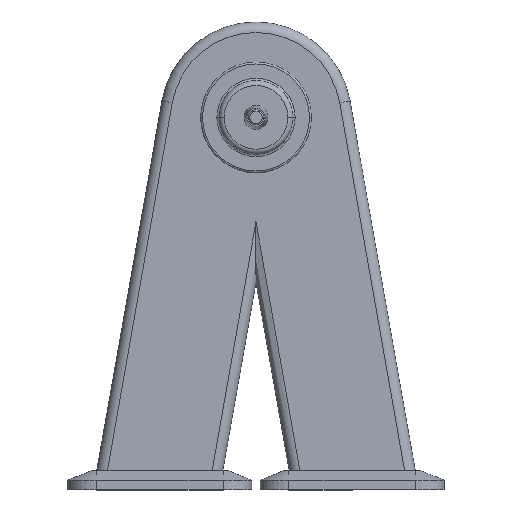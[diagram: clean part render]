
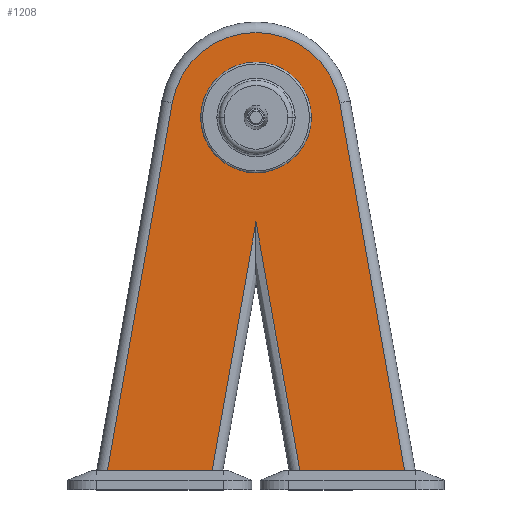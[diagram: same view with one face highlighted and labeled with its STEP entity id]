
A CAD part, top view. The second image highlights one B-rep face of the part: STEP entity #1208.
In plain terms, the highlighted planar face has unit normal (0, 0, 1).
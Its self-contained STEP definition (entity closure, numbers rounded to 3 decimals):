
#2 = VECTOR ( 'NONE', #1833, 1000. ) ;
#7 = VERTEX_POINT ( 'NONE', #575 ) ;
#39 = CARTESIAN_POINT ( 'NONE',  ( 0., 390., 63. ) ) ;
#109 = CARTESIAN_POINT ( 'NONE',  ( 0., 390., 63. ) ) ;
#257 = DIRECTION ( 'NONE',  ( 0., 0., 1. ) ) ;
#294 = CARTESIAN_POINT ( 'NONE',  ( 0., 20., 63. ) ) ;
#337 = AXIS2_PLACEMENT_3D ( 'NONE', #109, #2846, #821 ) ;
#371 = DIRECTION ( 'NONE',  ( 1., 0., 0. ) ) ;
#384 = EDGE_CURVE ( 'NONE', #2886, #3773, #1804, .T. ) ;
#396 = VERTEX_POINT ( 'NONE', #3245 ) ;
#496 = ORIENTED_EDGE ( 'NONE', *, *, #928, .T. ) ;
#530 = DIRECTION ( 'NONE',  ( 0., 0., 1. ) ) ;
#575 = CARTESIAN_POINT ( 'NONE',  ( -155.614, 20., 63. ) ) ;
#686 = LINE ( 'NONE', #1011, #3286 ) ;
#821 = DIRECTION ( 'NONE',  ( 1., 0., 0. ) ) ;
#830 = EDGE_CURVE ( 'NONE', #3244, #396, #1015, .T. ) ;
#831 = CARTESIAN_POINT ( 'NONE',  ( -87.648, 405.455, 63. ) ) ;
#877 = ORIENTED_EDGE ( 'NONE', *, *, #4058, .F. ) ;
#925 = VERTEX_POINT ( 'NONE', #3387 ) ;
#928 = EDGE_CURVE ( 'NONE', #4377, #2886, #686, .T. ) ;
#997 = DIRECTION ( 'NONE',  ( -1., 0., 0. ) ) ;
#1011 = CARTESIAN_POINT ( 'NONE',  ( 87.648, 405.455, 63. ) ) ;
#1015 = CIRCLE ( 'NONE', #1647, 58. ) ;
#1092 = VERTEX_POINT ( 'NONE', #2115 ) ;
#1114 = CARTESIAN_POINT ( 'NONE',  ( 58., 390., 63. ) ) ;
#1158 = DIRECTION ( 'NONE',  ( 0.174, 0.985, 0. ) ) ;
#1184 = LINE ( 'NONE', #3703, #1864 ) ;
#1199 = ORIENTED_EDGE ( 'NONE', *, *, #384, .T. ) ;
#1208 = ADVANCED_FACE ( 'NONE', ( #3750, #3650 ), #2165, .T. ) ;
#1373 = AXIS2_PLACEMENT_3D ( 'NONE', #2551, #530, #2899 ) ;
#1460 = ORIENTED_EDGE ( 'NONE', *, *, #830, .F. ) ;
#1471 = EDGE_CURVE ( 'NONE', #4377, #1768, #3391, .T. ) ;
#1510 = EDGE_LOOP ( 'NONE', ( #877, #1460 ) ) ;
#1647 = AXIS2_PLACEMENT_3D ( 'NONE', #2300, #257, #2643 ) ;
#1701 = ORIENTED_EDGE ( 'NONE', *, *, #3548, .F. ) ;
#1768 = VERTEX_POINT ( 'NONE', #4244 ) ;
#1804 = CIRCLE ( 'NONE', #1373, 89. ) ;
#1833 = DIRECTION ( 'NONE',  ( -0.174, -0.985, 0. ) ) ;
#1864 = VECTOR ( 'NONE', #3035, 1000. ) ;
#2021 = DIRECTION ( 'NONE',  ( -0.174, 0.985, 0. ) ) ;
#2082 = VECTOR ( 'NONE', #1158, 1000. ) ;
#2115 = CARTESIAN_POINT ( 'NONE',  ( 0., 280.583, 63. ) ) ;
#2165 = PLANE ( 'NONE',  #337 ) ;
#2184 = LINE ( 'NONE', #3528, #2082 ) ;
#2188 = DIRECTION ( 'NONE',  ( 0.174, -0.985, 0. ) ) ;
#2219 = CARTESIAN_POINT ( 'NONE',  ( 87.648, 405.455, 63. ) ) ;
#2220 = EDGE_CURVE ( 'NONE', #1092, #1768, #4095, .T. ) ;
#2234 = ORIENTED_EDGE ( 'NONE', *, *, #4222, .T. ) ;
#2296 = EDGE_LOOP ( 'NONE', ( #1701, #2687, #3790, #4021, #496, #1199, #2234 ) ) ;
#2300 = CARTESIAN_POINT ( 'NONE',  ( 0., 390., 63. ) ) ;
#2410 = DIRECTION ( 'NONE',  ( 0., 0., 1. ) ) ;
#2471 = VECTOR ( 'NONE', #997, 1000. ) ;
#2534 = AXIS2_PLACEMENT_3D ( 'NONE', #39, #2410, #371 ) ;
#2551 = CARTESIAN_POINT ( 'NONE',  ( 0., 390., 63. ) ) ;
#2596 = LINE ( 'NONE', #3860, #2 ) ;
#2643 = DIRECTION ( 'NONE',  ( 1., 0., 0. ) ) ;
#2687 = ORIENTED_EDGE ( 'NONE', *, *, #2764, .T. ) ;
#2764 = EDGE_CURVE ( 'NONE', #925, #1092, #2184, .T. ) ;
#2846 = DIRECTION ( 'NONE',  ( 0., 0., 1. ) ) ;
#2886 = VERTEX_POINT ( 'NONE', #2219 ) ;
#2899 = DIRECTION ( 'NONE',  ( 1., 0., 0. ) ) ;
#3035 = DIRECTION ( 'NONE',  ( -1., 0., 0. ) ) ;
#3214 = VECTOR ( 'NONE', #2188, 1000. ) ;
#3244 = VERTEX_POINT ( 'NONE', #1114 ) ;
#3245 = CARTESIAN_POINT ( 'NONE',  ( -58., 390., 63. ) ) ;
#3286 = VECTOR ( 'NONE', #2021, 1000. ) ;
#3387 = CARTESIAN_POINT ( 'NONE',  ( -45.948, 20., 63. ) ) ;
#3391 = LINE ( 'NONE', #294, #2471 ) ;
#3528 = CARTESIAN_POINT ( 'NONE',  ( -10.833, 219.147, 63. ) ) ;
#3548 = EDGE_CURVE ( 'NONE', #925, #7, #1184, .T. ) ;
#3650 = FACE_OUTER_BOUND ( 'NONE', #2296, .T. ) ;
#3703 = CARTESIAN_POINT ( 'NONE',  ( 0., 20., 63. ) ) ;
#3750 = FACE_BOUND ( 'NONE', #1510, .T. ) ;
#3773 = VERTEX_POINT ( 'NONE', #831 ) ;
#3790 = ORIENTED_EDGE ( 'NONE', *, *, #2220, .T. ) ;
#3860 = CARTESIAN_POINT ( 'NONE',  ( -160.535, -7.91, 63. ) ) ;
#4019 = CIRCLE ( 'NONE', #2534, 58. ) ;
#4021 = ORIENTED_EDGE ( 'NONE', *, *, #1471, .F. ) ;
#4058 = EDGE_CURVE ( 'NONE', #396, #3244, #4019, .T. ) ;
#4095 = LINE ( 'NONE', #4200, #3214 ) ;
#4200 = CARTESIAN_POINT ( 'NONE',  ( 52.06, -14.664, 63. ) ) ;
#4222 = EDGE_CURVE ( 'NONE', #3773, #7, #2596, .T. ) ;
#4244 = CARTESIAN_POINT ( 'NONE',  ( 45.948, 20., 63. ) ) ;
#4273 = CARTESIAN_POINT ( 'NONE',  ( 155.614, 20., 63. ) ) ;
#4377 = VERTEX_POINT ( 'NONE', #4273 ) ;
